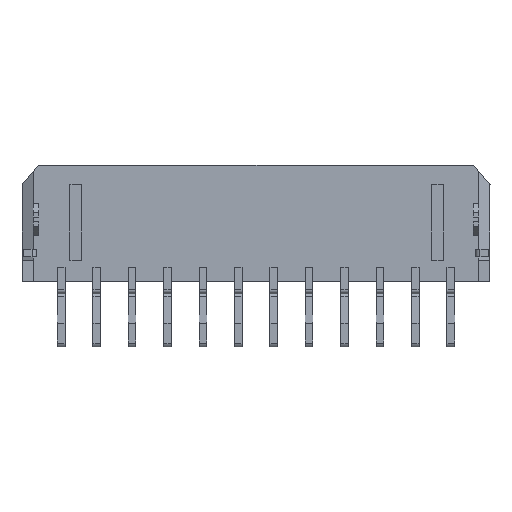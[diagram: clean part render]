
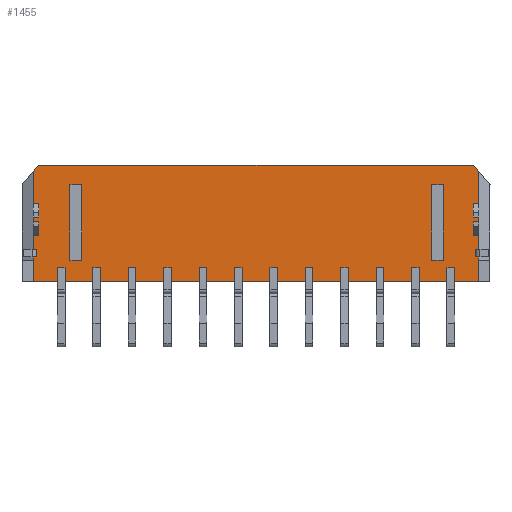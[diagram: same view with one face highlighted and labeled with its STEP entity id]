
A CAD part, front view. The second image highlights one B-rep face of the part: STEP entity #1455.
In plain terms, the highlighted planar face has unit normal (0, -1, 0).
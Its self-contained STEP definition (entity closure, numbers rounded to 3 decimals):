
#853 = EDGE_CURVE ( 'NONE', #31534, #31523, #29229, .T. ) ;
#858 = EDGE_CURVE ( 'NONE', #31878, #31568, #29493, .T. ) ;
#859 = EDGE_CURVE ( 'NONE', #31863, #31852, #29578, .T. ) ;
#862 = EDGE_CURVE ( 'NONE', #31788, #31800, #29593, .T. ) ;
#874 = EDGE_CURVE ( 'NONE', #31557, #31533, #29715, .T. ) ;
#875 = EDGE_CURVE ( 'NONE', #31523, #31524, #29874, .T. ) ;
#877 = EDGE_CURVE ( 'NONE', #31546, #31535, #29904, .T. ) ;
#880 = EDGE_CURVE ( 'NONE', #31852, #31849, #29876, .T. ) ;
#883 = EDGE_CURVE ( 'NONE', #31578, #31557, #29915, .T. ) ;
#884 = EDGE_CURVE ( 'NONE', #31869, #31863, #29911, .T. ) ;
#886 = EDGE_CURVE ( 'NONE', #31535, #31534, #29905, .T. ) ;
#896 = EDGE_CURVE ( 'NONE', #31800, #31869, #3749, .T. ) ;
#903 = EDGE_CURVE ( 'NONE', #31533, #31546, #3770, .T. ) ;
#914 = EDGE_CURVE ( 'NONE', #31849, #31878, #3796, .T. ) ;
#919 = EDGE_CURVE ( 'NONE', #31568, #31578, #3807, .T. ) ;
#923 = EDGE_CURVE ( 'NONE', #31524, #31788, #3830, .T. ) ;
#1455 = ADVANCED_FACE ( 'NONE', ( #7618 ), #7603, .F. ) ;
#3749 = LINE ( 'NONE', #3750, #5886 ) ;
#3750 = CARTESIAN_POINT ( 'NONE',  ( 33.875, -3.435, 4.955 ) ) ;
#3751 = DIRECTION ( 'NONE',  ( 0., 0., 1. ) ) ;
#3770 = LINE ( 'NONE', #3771, #20743 ) ;
#3771 = CARTESIAN_POINT ( 'NONE',  ( 26.125, -3.435, -2.185 ) ) ;
#3772 = DIRECTION ( 'NONE',  ( 1., 0., 0. ) ) ;
#3796 = LINE ( 'NONE', #3804, #20781 ) ;
#3804 = CARTESIAN_POINT ( 'NONE',  ( 33.875, -3.435, 4.955 ) ) ;
#3805 = DIRECTION ( 'NONE',  ( 0., 0., 1. ) ) ;
#3807 = LINE ( 'NONE', #3819, #20680 ) ;
#3819 = CARTESIAN_POINT ( 'NONE',  ( 26.125, -3.435, 4.955 ) ) ;
#3820 = DIRECTION ( 'NONE',  ( -1., 0., 0. ) ) ;
#3830 = LINE ( 'NONE', #3831, #20716 ) ;
#3831 = CARTESIAN_POINT ( 'NONE',  ( 26.125, -3.435, -4.945 ) ) ;
#3832 = DIRECTION ( 'NONE',  ( 1., 0., 0. ) ) ;
#5875 = VECTOR ( 'NONE', #29445, 1000. ) ;
#5880 = VECTOR ( 'NONE', #29572, 1000. ) ;
#5886 = VECTOR ( 'NONE', #3751, 1000. ) ;
#5903 = VECTOR ( 'NONE', #29707, 1000. ) ;
#5906 = VECTOR ( 'NONE', #29912, 1000. ) ;
#5909 = VECTOR ( 'NONE', #29914, 1000. ) ;
#5917 = VECTOR ( 'NONE', #29891, 1000. ) ;
#5920 = VECTOR ( 'NONE', #29898, 1000. ) ;
#5923 = VECTOR ( 'NONE', #29869, 1000. ) ;
#5927 = VECTOR ( 'NONE', #29872, 1000. ) ;
#5948 = VECTOR ( 'NONE', #29666, 1000. ) ;
#5951 = VECTOR ( 'NONE', #29556, 1000. ) ;
#7603 = PLANE ( 'NONE',  #37979 ) ;
#7618 = FACE_OUTER_BOUND ( 'NONE', #36358, .T. ) ;
#7628 = CARTESIAN_POINT ( 'NONE',  ( 16.919, -3.435, -4.955 ) ) ;
#7629 = DIRECTION ( 'NONE',  ( 0., 1., 0. ) ) ;
#7630 = DIRECTION ( 'NONE',  ( 0., 0., 1. ) ) ;
#20680 = VECTOR ( 'NONE', #3820, 1000. ) ;
#20716 = VECTOR ( 'NONE', #3832, 1000. ) ;
#20743 = VECTOR ( 'NONE', #3772, 1000. ) ;
#20781 = VECTOR ( 'NONE', #3805, 1000. ) ;
#27790 = CARTESIAN_POINT ( 'NONE',  ( -3.875, -3.435, -2.185 ) ) ;
#27830 = CARTESIAN_POINT ( 'NONE',  ( -3.875, -3.435, -3.105 ) ) ;
#27831 = CARTESIAN_POINT ( 'NONE',  ( -3.875, -3.435, -4.945 ) ) ;
#27833 = CARTESIAN_POINT ( 'NONE',  ( -3.875, -3.435, -2.825 ) ) ;
#27834 = CARTESIAN_POINT ( 'NONE',  ( -3.625, -3.435, -2.825 ) ) ;
#27835 = CARTESIAN_POINT ( 'NONE',  ( -3.625, -3.435, -2.185 ) ) ;
#27837 = CARTESIAN_POINT ( 'NONE',  ( -3.875, -3.435, 4.425 ) ) ;
#27839 = CARTESIAN_POINT ( 'NONE',  ( 33.425, -3.435, 4.955 ) ) ;
#27841 = CARTESIAN_POINT ( 'NONE',  ( -3.425, -3.435, 4.955 ) ) ;
#27873 = CARTESIAN_POINT ( 'NONE',  ( 33.625, -3.435, -2.185 ) ) ;
#27881 = CARTESIAN_POINT ( 'NONE',  ( 33.875, -3.435, -4.945 ) ) ;
#27882 = CARTESIAN_POINT ( 'NONE',  ( 33.875, -3.435, -3.105 ) ) ;
#27891 = CARTESIAN_POINT ( 'NONE',  ( 33.875, -3.435, -2.185 ) ) ;
#27895 = CARTESIAN_POINT ( 'NONE',  ( 33.625, -3.435, -2.825 ) ) ;
#27896 = CARTESIAN_POINT ( 'NONE',  ( 33.875, -3.435, -2.825 ) ) ;
#27898 = CARTESIAN_POINT ( 'NONE',  ( 33.875, -3.435, 4.425 ) ) ;
#29229 = LINE ( 'NONE', #29475, #5875 ) ;
#29445 = DIRECTION ( 'NONE',  ( 0., 0., -1. ) ) ;
#29475 = CARTESIAN_POINT ( 'NONE',  ( -3.875, -3.435, 4.955 ) ) ;
#29493 = LINE ( 'NONE', #29594, #5880 ) ;
#29556 = DIRECTION ( 'NONE',  ( 0., 0., 1. ) ) ;
#29572 = DIRECTION ( 'NONE',  ( -0.647, 0., 0.763 ) ) ;
#29573 = CARTESIAN_POINT ( 'NONE',  ( 33.625, -3.435, 4.955 ) ) ;
#29578 = LINE ( 'NONE', #29573, #5951 ) ;
#29593 = LINE ( 'NONE', #29693, #5948 ) ;
#29594 = CARTESIAN_POINT ( 'NONE',  ( 34.825, -3.435, 3.305 ) ) ;
#29666 = DIRECTION ( 'NONE',  ( 0., 0., 1. ) ) ;
#29693 = CARTESIAN_POINT ( 'NONE',  ( 33.875, -3.435, 4.955 ) ) ;
#29707 = DIRECTION ( 'NONE',  ( -1., 0., 0. ) ) ;
#29715 = LINE ( 'NONE', #29877, #5927 ) ;
#29869 = DIRECTION ( 'NONE',  ( 0., 0., -1. ) ) ;
#29872 = DIRECTION ( 'NONE',  ( 0., 0., -1. ) ) ;
#29873 = CARTESIAN_POINT ( 'NONE',  ( -3.875, -3.435, 4.955 ) ) ;
#29874 = LINE ( 'NONE', #29873, #5923 ) ;
#29876 = LINE ( 'NONE', #29892, #5917 ) ;
#29877 = CARTESIAN_POINT ( 'NONE',  ( -3.875, -3.435, 4.955 ) ) ;
#29891 = DIRECTION ( 'NONE',  ( 1., 0., 0. ) ) ;
#29892 = CARTESIAN_POINT ( 'NONE',  ( 26.125, -3.435, -2.185 ) ) ;
#29898 = DIRECTION ( 'NONE',  ( 0., 0., -1. ) ) ;
#29903 = CARTESIAN_POINT ( 'NONE',  ( -3.625, -3.435, 4.955 ) ) ;
#29904 = LINE ( 'NONE', #29903, #5920 ) ;
#29905 = LINE ( 'NONE', #29916, #5903 ) ;
#29910 = CARTESIAN_POINT ( 'NONE',  ( 26.125, -3.435, -2.825 ) ) ;
#29911 = LINE ( 'NONE', #29910, #5906 ) ;
#29912 = DIRECTION ( 'NONE',  ( -1., 0., 0. ) ) ;
#29913 = CARTESIAN_POINT ( 'NONE',  ( -3.425, -3.435, 4.955 ) ) ;
#29914 = DIRECTION ( 'NONE',  ( -0.647, 0., -0.763 ) ) ;
#29915 = LINE ( 'NONE', #29913, #5909 ) ;
#29916 = CARTESIAN_POINT ( 'NONE',  ( 26.125, -3.435, -2.825 ) ) ;
#31523 = VERTEX_POINT ( 'NONE', #27830 ) ;
#31524 = VERTEX_POINT ( 'NONE', #27831 ) ;
#31533 = VERTEX_POINT ( 'NONE', #27790 ) ;
#31534 = VERTEX_POINT ( 'NONE', #27833 ) ;
#31535 = VERTEX_POINT ( 'NONE', #27834 ) ;
#31546 = VERTEX_POINT ( 'NONE', #27835 ) ;
#31557 = VERTEX_POINT ( 'NONE', #27837 ) ;
#31568 = VERTEX_POINT ( 'NONE', #27839 ) ;
#31578 = VERTEX_POINT ( 'NONE', #27841 ) ;
#31788 = VERTEX_POINT ( 'NONE', #27881 ) ;
#31800 = VERTEX_POINT ( 'NONE', #27882 ) ;
#31849 = VERTEX_POINT ( 'NONE', #27891 ) ;
#31852 = VERTEX_POINT ( 'NONE', #27873 ) ;
#31863 = VERTEX_POINT ( 'NONE', #27895 ) ;
#31869 = VERTEX_POINT ( 'NONE', #27896 ) ;
#31878 = VERTEX_POINT ( 'NONE', #27898 ) ;
#36358 = EDGE_LOOP ( 'NONE', ( #41366, #41365, #41364, #41363, #41362, #41361, #41358, #41357, #41356, #41355, #41354, #41353, #41352, #41351, #41350, #41347 ) ) ;
#37979 = AXIS2_PLACEMENT_3D ( 'NONE', #7628, #7629, #7630 ) ;
#41347 = ORIENTED_EDGE ( 'NONE', *, *, #858, .T. ) ;
#41350 = ORIENTED_EDGE ( 'NONE', *, *, #914, .T. ) ;
#41351 = ORIENTED_EDGE ( 'NONE', *, *, #880, .T. ) ;
#41352 = ORIENTED_EDGE ( 'NONE', *, *, #859, .T. ) ;
#41353 = ORIENTED_EDGE ( 'NONE', *, *, #884, .T. ) ;
#41354 = ORIENTED_EDGE ( 'NONE', *, *, #896, .T. ) ;
#41355 = ORIENTED_EDGE ( 'NONE', *, *, #862, .T. ) ;
#41356 = ORIENTED_EDGE ( 'NONE', *, *, #923, .T. ) ;
#41357 = ORIENTED_EDGE ( 'NONE', *, *, #875, .T. ) ;
#41358 = ORIENTED_EDGE ( 'NONE', *, *, #853, .T. ) ;
#41361 = ORIENTED_EDGE ( 'NONE', *, *, #886, .T. ) ;
#41362 = ORIENTED_EDGE ( 'NONE', *, *, #877, .T. ) ;
#41363 = ORIENTED_EDGE ( 'NONE', *, *, #903, .T. ) ;
#41364 = ORIENTED_EDGE ( 'NONE', *, *, #874, .T. ) ;
#41365 = ORIENTED_EDGE ( 'NONE', *, *, #883, .T. ) ;
#41366 = ORIENTED_EDGE ( 'NONE', *, *, #919, .T. ) ;
